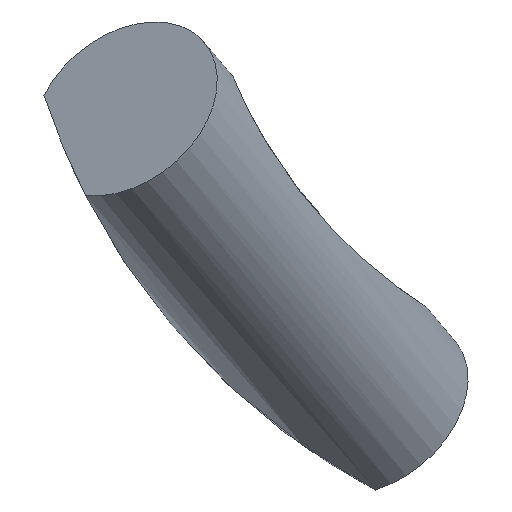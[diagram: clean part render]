
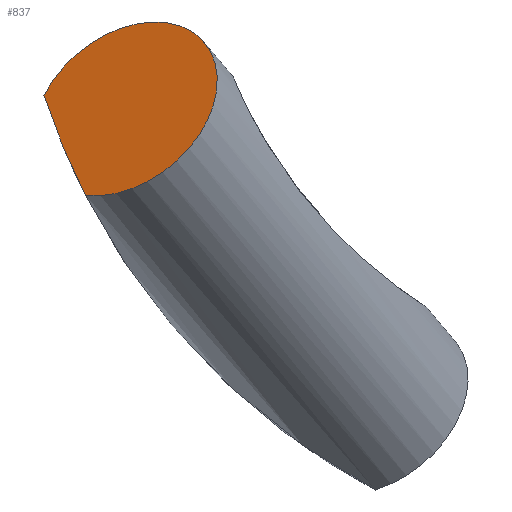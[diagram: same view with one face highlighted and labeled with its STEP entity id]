
A CAD part, left-side view. The second image highlights one B-rep face of the part: STEP entity #837.
In plain terms, the highlighted planar face has unit normal (-0.707, 0.455, 0.542).
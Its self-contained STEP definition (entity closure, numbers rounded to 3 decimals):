
#33 = CYLINDRICAL_SURFACE('',#34,4.5);
#34 = AXIS2_PLACEMENT_3D('',#35,#36,#37);
#35 = CARTESIAN_POINT('',(-87.825,-50.92,
    24.109));
#36 = DIRECTION('',(-0.707,0.455,0.542));
#37 = DIRECTION('',(-0.608,0.,-0.794)
  );
#131 = VERTEX_POINT('',#132);
#132 = CARTESIAN_POINT('',(-102.072,-36.478,
    37.699));
#170 = CYLINDRICAL_SURFACE('',#171,30.);
#171 = AXIS2_PLACEMENT_3D('',#172,#173,#174);
#172 = CARTESIAN_POINT('',(-81.,-65.,47.));
#173 = DIRECTION('',(-1.,0.,0.));
#174 = DIRECTION('',(0.,0.,-1.));
#204 = EDGE_CURVE('',#205,#131,#207,.T.);
#205 = VERTEX_POINT('',#206);
#206 = CARTESIAN_POINT('',(-106.566,-38.286,33.349
    ));
#207 = SURFACE_CURVE('',#208,(#213,#220),.PCURVE_S1.);
#208 = CIRCLE('',#209,4.5);
#209 = AXIS2_PLACEMENT_3D('',#210,#211,#212);
#210 = CARTESIAN_POINT('',(-104.795,-40.012,
    37.109));
#211 = DIRECTION('',(-0.707,0.455,0.542));
#212 = DIRECTION('',(0.608,0.,0.794));
#213 = PCURVE('',#33,#214);
#214 = DEFINITIONAL_REPRESENTATION('',(#215),#219);
#215 = LINE('',#216,#217);
#216 = CARTESIAN_POINT('',(-3.142,24.));
#217 = VECTOR('',#218,1.);
#218 = DIRECTION('',(1.,0.));
#219 = ( GEOMETRIC_REPRESENTATION_CONTEXT(2) 
PARAMETRIC_REPRESENTATION_CONTEXT() REPRESENTATION_CONTEXT('2D SPACE',''
  ) );
#220 = PCURVE('',#221,#226);
#221 = PLANE('',#222);
#222 = AXIS2_PLACEMENT_3D('',#223,#224,#225);
#223 = CARTESIAN_POINT('',(-104.795,-40.012,37.109
    ));
#224 = DIRECTION('',(-0.707,0.455,0.542));
#225 = DIRECTION('',(-0.608,0.,-0.794
    ));
#226 = DEFINITIONAL_REPRESENTATION('',(#227),#231);
#227 = CIRCLE('',#228,4.5);
#228 = AXIS2_PLACEMENT_2D('',#229,#230);
#229 = CARTESIAN_POINT('',(0.,0.));
#230 = DIRECTION('',(-1.,0.));
#231 = ( GEOMETRIC_REPRESENTATION_CONTEXT(2) 
PARAMETRIC_REPRESENTATION_CONTEXT() REPRESENTATION_CONTEXT('2D SPACE',''
  ) );
#793 = EDGE_CURVE('',#131,#205,#794,.T.);
#794 = SURFACE_CURVE('',#795,(#799,#828),.PCURVE_S1.);
#795 = ( BOUNDED_CURVE() B_SPLINE_CURVE(2,(#796,#797,#798),
.UNSPECIFIED.,.F.,.F.) B_SPLINE_CURVE_WITH_KNOTS((3,3),(248.061,
257.066),.PIECEWISE_BEZIER_KNOTS.) CURVE() 
GEOMETRIC_REPRESENTATION_ITEM() RATIONAL_B_SPLINE_CURVE((1.,
0.997,1.)) REPRESENTATION_ITEM('') );
#796 = CARTESIAN_POINT('',(-102.072,-36.478,
    37.699));
#797 = CARTESIAN_POINT('',(-104.263,-37.211,35.453
    ));
#798 = CARTESIAN_POINT('',(-106.566,-38.286,
    33.349));
#799 = PCURVE('',#170,#800);
#800 = DEFINITIONAL_REPRESENTATION('',(#801),#827);
#801 = B_SPLINE_CURVE_WITH_KNOTS('',3,(#802,#803,#804,#805,#806,#807,
    #808,#809,#810,#811,#812,#813,#814,#815,#816,#817,#818,#819,#820,
    #821,#822,#823,#824,#825,#826),.UNSPECIFIED.,.F.,.F.,(4,1,1,1,1,1,1,
    1,1,1,1,1,1,1,1,1,1,1,1,1,1,1,4),(248.061,248.47,
    248.88,249.289,249.698,250.108,
    250.517,250.926,251.336,251.745,
    252.154,252.564,252.973,253.382,
    253.792,254.201,254.61,255.02,
    255.429,255.838,256.248,256.657,
    257.066),.QUASI_UNIFORM_KNOTS.);
#802 = CARTESIAN_POINT('',(5.028,21.072));
#803 = CARTESIAN_POINT('',(5.03,21.138));
#804 = CARTESIAN_POINT('',(5.035,21.271));
#805 = CARTESIAN_POINT('',(5.042,21.47));
#806 = CARTESIAN_POINT('',(5.049,21.67));
#807 = CARTESIAN_POINT('',(5.056,21.871));
#808 = CARTESIAN_POINT('',(5.063,22.072));
#809 = CARTESIAN_POINT('',(5.07,22.274));
#810 = CARTESIAN_POINT('',(5.078,22.477));
#811 = CARTESIAN_POINT('',(5.085,22.679));
#812 = CARTESIAN_POINT('',(5.092,22.883));
#813 = CARTESIAN_POINT('',(5.099,23.087));
#814 = CARTESIAN_POINT('',(5.106,23.291));
#815 = CARTESIAN_POINT('',(5.113,23.496));
#816 = CARTESIAN_POINT('',(5.12,23.701));
#817 = CARTESIAN_POINT('',(5.128,23.907));
#818 = CARTESIAN_POINT('',(5.135,24.113));
#819 = CARTESIAN_POINT('',(5.142,24.319));
#820 = CARTESIAN_POINT('',(5.149,24.526));
#821 = CARTESIAN_POINT('',(5.156,24.734));
#822 = CARTESIAN_POINT('',(5.163,24.941));
#823 = CARTESIAN_POINT('',(5.171,25.149));
#824 = CARTESIAN_POINT('',(5.178,25.357));
#825 = CARTESIAN_POINT('',(5.182,25.496));
#826 = CARTESIAN_POINT('',(5.185,25.566));
#827 = ( GEOMETRIC_REPRESENTATION_CONTEXT(2) 
PARAMETRIC_REPRESENTATION_CONTEXT() REPRESENTATION_CONTEXT('2D SPACE',''
  ) );
#828 = PCURVE('',#221,#829);
#829 = DEFINITIONAL_REPRESENTATION('',(#830),#834);
#830 = ( BOUNDED_CURVE() B_SPLINE_CURVE(2,(#831,#832,#833),
.UNSPECIFIED.,.F.,.F.) B_SPLINE_CURVE_WITH_KNOTS((3,3),(248.061,
257.066),.PIECEWISE_BEZIER_KNOTS.) CURVE() 
GEOMETRIC_REPRESENTATION_ITEM() RATIONAL_B_SPLINE_CURVE((1.,
0.997,1.)) REPRESENTATION_ITEM('') );
#831 = CARTESIAN_POINT('',(-2.125,-3.967));
#832 = CARTESIAN_POINT('',(0.991,-3.145));
#833 = CARTESIAN_POINT('',(4.061,-1.938));
#834 = ( GEOMETRIC_REPRESENTATION_CONTEXT(2) 
PARAMETRIC_REPRESENTATION_CONTEXT() REPRESENTATION_CONTEXT('2D SPACE',''
  ) );
#837 = ADVANCED_FACE('',(#838),#221,.T.);
#838 = FACE_BOUND('',#839,.T.);
#839 = EDGE_LOOP('',(#840,#841));
#840 = ORIENTED_EDGE('',*,*,#204,.T.);
#841 = ORIENTED_EDGE('',*,*,#793,.T.);
